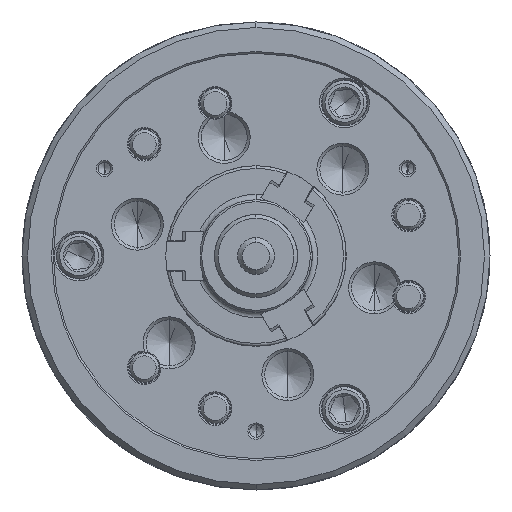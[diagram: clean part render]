
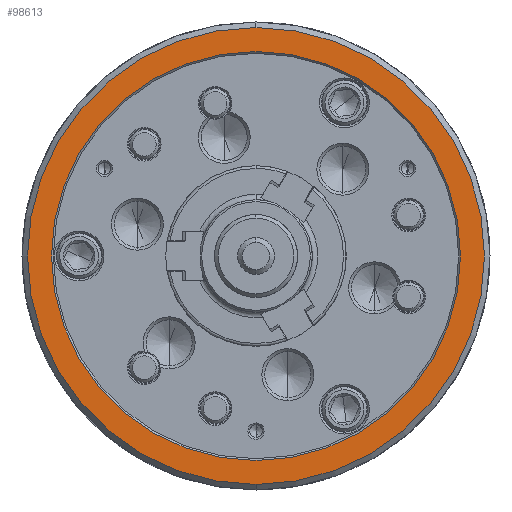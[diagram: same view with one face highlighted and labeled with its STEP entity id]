
A CAD part, left-side view. The second image highlights one B-rep face of the part: STEP entity #98613.
In plain terms, the highlighted planar face has unit normal (-1, 0, 0).
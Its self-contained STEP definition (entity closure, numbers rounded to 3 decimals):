
#511 = CARTESIAN_POINT ( 'NONE',  ( -89., 0., 0. ) ) ;
#1022 = DIRECTION ( 'NONE',  ( 0., 0., -1. ) ) ;
#1164 = CIRCLE ( 'NONE', #58825, 111. ) ;
#4249 = ORIENTED_EDGE ( 'NONE', *, *, #99409, .F. ) ;
#7196 = CIRCLE ( 'NONE', #39361, 124. ) ;
#10278 = PLANE ( 'NONE',  #96670 ) ;
#10720 = ORIENTED_EDGE ( 'NONE', *, *, #23766, .T. ) ;
#11649 = CARTESIAN_POINT ( 'NONE',  ( -89., 0., 111. ) ) ;
#19326 = CIRCLE ( 'NONE', #37933, 111. ) ;
#20491 = EDGE_LOOP ( 'NONE', ( #10720, #93302 ) ) ;
#23766 = EDGE_CURVE ( 'NONE', #94363, #70736, #19326, .T. ) ;
#23871 = CARTESIAN_POINT ( 'NONE',  ( -89., 0., 0. ) ) ;
#25170 = DIRECTION ( 'NONE',  ( 0., 0., -1. ) ) ;
#30392 = DIRECTION ( 'NONE',  ( 1., 0., 0. ) ) ;
#32846 = DIRECTION ( 'NONE',  ( 1., 0., 0. ) ) ;
#33360 = EDGE_CURVE ( 'NONE', #70736, #94363, #1164, .T. ) ;
#35712 = CIRCLE ( 'NONE', #49277, 124. ) ;
#37933 = AXIS2_PLACEMENT_3D ( 'NONE', #88460, #80530, #51218 ) ;
#39361 = AXIS2_PLACEMENT_3D ( 'NONE', #511, #32846, #1022 ) ;
#42134 = FACE_OUTER_BOUND ( 'NONE', #72564, .T. ) ;
#43705 = CARTESIAN_POINT ( 'NONE',  ( -89., 0., 124. ) ) ;
#46509 = ORIENTED_EDGE ( 'NONE', *, *, #101184, .F. ) ;
#49277 = AXIS2_PLACEMENT_3D ( 'NONE', #23871, #56244, #88659 ) ;
#51218 = DIRECTION ( 'NONE',  ( 0., 0., -1. ) ) ;
#56244 = DIRECTION ( 'NONE',  ( 1., 0., 0. ) ) ;
#58825 = AXIS2_PLACEMENT_3D ( 'NONE', #103199, #30392, #62821 ) ;
#62821 = DIRECTION ( 'NONE',  ( 0., 0., -1. ) ) ;
#70736 = VERTEX_POINT ( 'NONE', #94212 ) ;
#72564 = EDGE_LOOP ( 'NONE', ( #46509, #4249 ) ) ;
#74551 = CARTESIAN_POINT ( 'NONE',  ( -89., -124., 0. ) ) ;
#80530 = DIRECTION ( 'NONE',  ( 1., 0., 0. ) ) ;
#83024 = FACE_BOUND ( 'NONE', #20491, .T. ) ;
#88460 = CARTESIAN_POINT ( 'NONE',  ( -89., 0., 0. ) ) ;
#88659 = DIRECTION ( 'NONE',  ( 0., 0., -1. ) ) ;
#90425 = VERTEX_POINT ( 'NONE', #94360 ) ;
#91637 = VERTEX_POINT ( 'NONE', #43705 ) ;
#93302 = ORIENTED_EDGE ( 'NONE', *, *, #33360, .T. ) ;
#94212 = CARTESIAN_POINT ( 'NONE',  ( -89., 0., -111. ) ) ;
#94360 = CARTESIAN_POINT ( 'NONE',  ( -89., 0., -124. ) ) ;
#94363 = VERTEX_POINT ( 'NONE', #11649 ) ;
#96670 = AXIS2_PLACEMENT_3D ( 'NONE', #74551, #96865, #25170 ) ;
#96865 = DIRECTION ( 'NONE',  ( 1., 0., 0. ) ) ;
#98613 = ADVANCED_FACE ( 'NONE', ( #42134, #83024 ), #10278, .F. ) ;
#99409 = EDGE_CURVE ( 'NONE', #91637, #90425, #35712, .T. ) ;
#101184 = EDGE_CURVE ( 'NONE', #90425, #91637, #7196, .T. ) ;
#103199 = CARTESIAN_POINT ( 'NONE',  ( -89., 0., 0. ) ) ;
